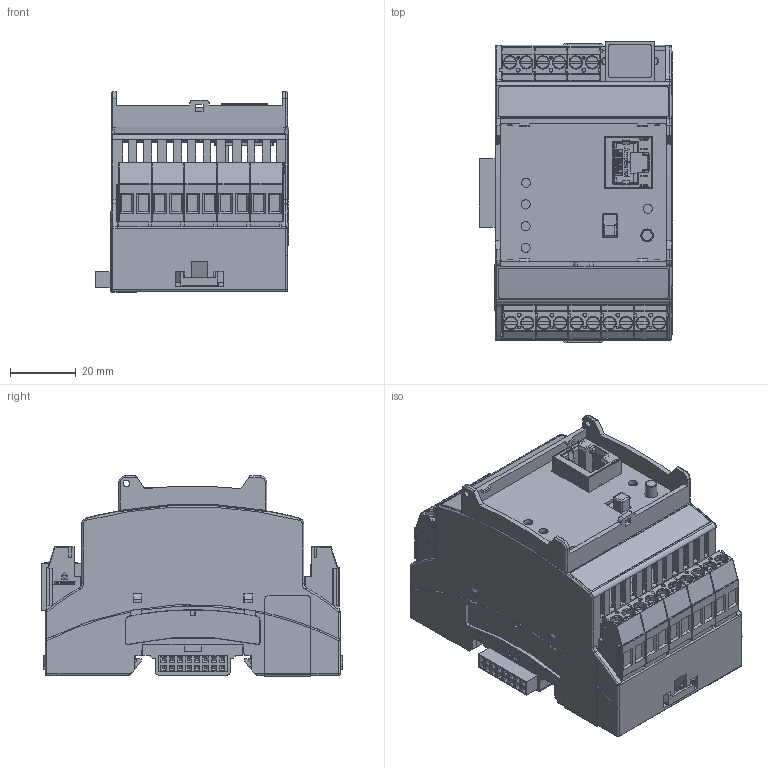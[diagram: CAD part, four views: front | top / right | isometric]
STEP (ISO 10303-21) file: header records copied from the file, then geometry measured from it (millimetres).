
FILE_DESCRIPTION(/* description */ (''),/* implementation_level */ '2;1');
FILE_NAME(/* name */ 'D:\WorkIMT\Project IMT\ИРИС-DIN\v2\!base\3D на сайт\IRIS-DIN.BASE 3D.stp',/* time_stamp */ '2024-02-06T16:28:51+03:00',/* author */ ('Admin'),/* organization */ (''),/* preprocessor_version */ 'ST-DEVELOPER v17.2',/* originating_system */ 'Autodesk Inventor 2019',/* authorisation */ '');
FILE_SCHEMA (('AUTOMOTIVE_DESIGN { 1 0 10303 214 3 1 1 }'));
Products named in the file (1): IRIS-DIN.BASE 3D
Bounding box: 58.7 x 91.5 x 60.9 mm (x, y, z)
Volume: 76325.2 mm3; surface area: 76267 mm2
Topology: 8 solids, 66 shells, 7412 faces, 20733 edges, 13536 vertices
Faces by surface type: plane 6038, cylinder 1029, torus 107, bspline 104, sphere 76, cone 58
Full cylindrical faces by diameter (mm): 0.2 x176, 0.4 x11, 1 x18, 1.5 x1, 2 x8, 2.3 x2, 2.4 x6, 2.8 x5, 3 x11, 3.2 x6, 3.5 x1, 3.85 x5, 3.9 x1, 4.05 x16, 6 x1, 7 x2
Entity records: 252646 total; most frequent: CARTESIAN_POINT 52514, ORIENTED_EDGE 41322, DIRECTION 37531, EDGE_CURVE 20661, LINE 17509, VECTOR 17509, VERTEX_POINT 13536, AXIS2_PLACEMENT_3D 10011
